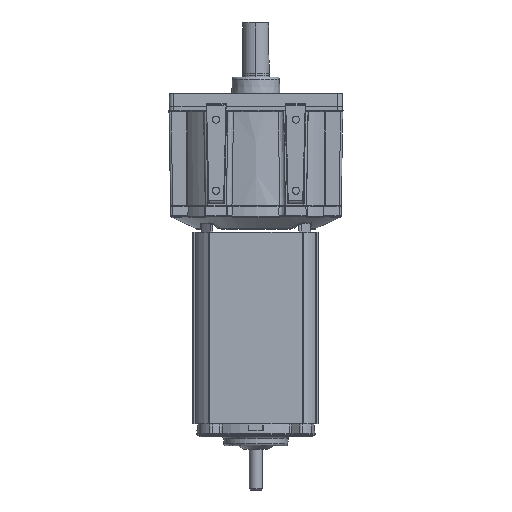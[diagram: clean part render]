
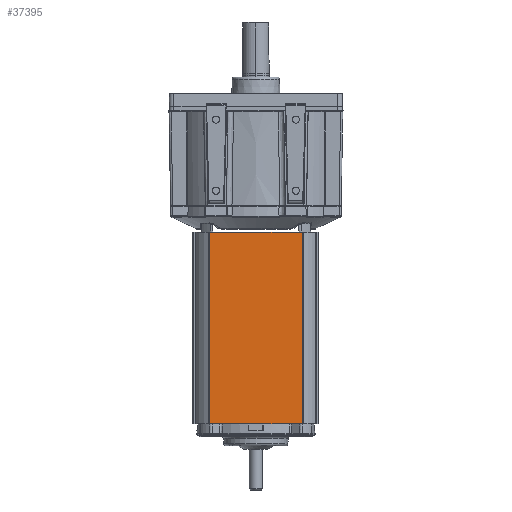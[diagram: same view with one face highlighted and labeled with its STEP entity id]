
A CAD part, front view. The second image highlights one B-rep face of the part: STEP entity #37395.
In plain terms, the highlighted planar face has unit normal (0, -1, 0).
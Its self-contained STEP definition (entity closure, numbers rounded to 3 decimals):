
#1618 = VERTEX_POINT ( 'NONE', #38885 ) ;
#1880 = DIRECTION ( 'NONE',  ( 0., 0., -1. ) ) ;
#2537 = PLANE ( 'NONE',  #13769 ) ;
#3056 = DIRECTION ( 'NONE',  ( 1., 0., 0. ) ) ;
#3710 = EDGE_CURVE ( 'NONE', #45210, #1618, #19303, .T. ) ;
#4060 = CARTESIAN_POINT ( 'NONE',  ( 33.147, -45.123, -236.743 ) ) ;
#5505 = ORIENTED_EDGE ( 'NONE', *, *, #47229, .F. ) ;
#5578 = DIRECTION ( 'NONE',  ( 0., -1., 0. ) ) ;
#11954 = ORIENTED_EDGE ( 'NONE', *, *, #3710, .T. ) ;
#13769 = AXIS2_PLACEMENT_3D ( 'NONE', #25662, #5578, #1880 ) ;
#13873 = VERTEX_POINT ( 'NONE', #49334 ) ;
#17625 = LINE ( 'NONE', #49348, #37525 ) ;
#19242 = LINE ( 'NONE', #45675, #42751 ) ;
#19303 = LINE ( 'NONE', #27775, #37416 ) ;
#23110 = EDGE_LOOP ( 'NONE', ( #24771, #33559, #5505, #11954 ) ) ;
#23924 = FACE_OUTER_BOUND ( 'NONE', #23110, .T. ) ;
#24771 = ORIENTED_EDGE ( 'NONE', *, *, #35006, .F. ) ;
#25662 = CARTESIAN_POINT ( 'NONE',  ( 33.655, -45.123, -240.655 ) ) ;
#26777 = CARTESIAN_POINT ( 'NONE',  ( 33.147, -45.123, -236.743 ) ) ;
#27775 = CARTESIAN_POINT ( 'NONE',  ( -33.147, -45.123, -240.655 ) ) ;
#29541 = EDGE_CURVE ( 'NONE', #49702, #13873, #19242, .T. ) ;
#30631 = LINE ( 'NONE', #4060, #50002 ) ;
#33559 = ORIENTED_EDGE ( 'NONE', *, *, #29541, .T. ) ;
#34695 = DIRECTION ( 'NONE',  ( -1., 0., 0. ) ) ;
#35006 = EDGE_CURVE ( 'NONE', #49702, #1618, #30631, .T. ) ;
#37395 = ADVANCED_FACE ( 'NONE', ( #23924 ), #2537, .T. ) ;
#37416 = VECTOR ( 'NONE', #46903, 1000. ) ;
#37525 = VECTOR ( 'NONE', #3056, 1000. ) ;
#38885 = CARTESIAN_POINT ( 'NONE',  ( -33.147, -45.123, -236.743 ) ) ;
#42237 = CARTESIAN_POINT ( 'NONE',  ( -33.147, -45.123, -99.71 ) ) ;
#42751 = VECTOR ( 'NONE', #42932, 1000. ) ;
#42932 = DIRECTION ( 'NONE',  ( 0., 0., 1. ) ) ;
#45210 = VERTEX_POINT ( 'NONE', #42237 ) ;
#45675 = CARTESIAN_POINT ( 'NONE',  ( 33.147, -45.123, -240.655 ) ) ;
#46903 = DIRECTION ( 'NONE',  ( 0., 0., -1. ) ) ;
#47229 = EDGE_CURVE ( 'NONE', #45210, #13873, #17625, .T. ) ;
#49334 = CARTESIAN_POINT ( 'NONE',  ( 33.147, -45.123, -99.71 ) ) ;
#49348 = CARTESIAN_POINT ( 'NONE',  ( 33.655, -45.123, -99.71 ) ) ;
#49702 = VERTEX_POINT ( 'NONE', #26777 ) ;
#50002 = VECTOR ( 'NONE', #34695, 1000. ) ;
